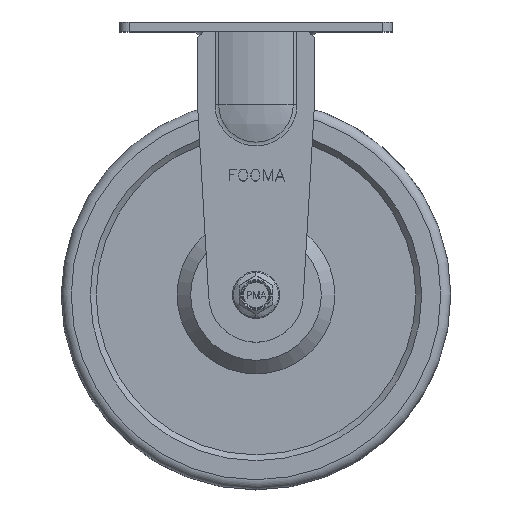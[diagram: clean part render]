
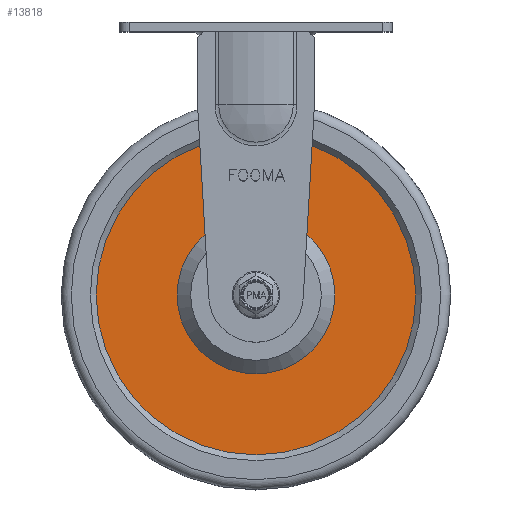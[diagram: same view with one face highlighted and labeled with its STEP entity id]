
A CAD part, top view. The second image highlights one B-rep face of the part: STEP entity #13818.
In plain terms, the highlighted planar face has unit normal (0, 0, 1).
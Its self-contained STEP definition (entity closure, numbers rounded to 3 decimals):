
#167=FACE_BOUND('',#2297,.T.);
#815=PLANE('',#14717);
#1525=FACE_OUTER_BOUND('',#2296,.T.);
#2296=EDGE_LOOP('',(#13052,#13053));
#2297=EDGE_LOOP('',(#13054,#13055));
#5872=CIRCLE('',#14715,82.);
#5873=CIRCLE('',#14716,82.);
#5874=CIRCLE('',#14718,40.5);
#5875=CIRCLE('',#14719,40.5);
#7173=VERTEX_POINT('',#23525);
#7174=VERTEX_POINT('',#23526);
#7175=VERTEX_POINT('',#23531);
#7176=VERTEX_POINT('',#23532);
#9133=EDGE_CURVE('',#7173,#7174,#5872,.T.);
#9134=EDGE_CURVE('',#7174,#7173,#5873,.T.);
#9136=EDGE_CURVE('',#7175,#7176,#5874,.T.);
#9137=EDGE_CURVE('',#7176,#7175,#5875,.T.);
#13052=ORIENTED_EDGE('',*,*,#9133,.T.);
#13053=ORIENTED_EDGE('',*,*,#9134,.T.);
#13054=ORIENTED_EDGE('',*,*,#9136,.F.);
#13055=ORIENTED_EDGE('',*,*,#9137,.F.);
#13818=ADVANCED_FACE('',(#1525,#167),#815,.T.);
#14715=AXIS2_PLACEMENT_3D('',#23527,#18161,#18162);
#14716=AXIS2_PLACEMENT_3D('',#23528,#18163,#18164);
#14717=AXIS2_PLACEMENT_3D('',#23530,#18166,#18167);
#14718=AXIS2_PLACEMENT_3D('',#23533,#18168,#18169);
#14719=AXIS2_PLACEMENT_3D('',#23534,#18170,#18171);
#18161=DIRECTION('center_axis',(0.,0.,
1.));
#18162=DIRECTION('ref_axis',(1.,0.,0.));
#18163=DIRECTION('center_axis',(0.,0.,
1.));
#18164=DIRECTION('ref_axis',(1.,0.,0.));
#18166=DIRECTION('center_axis',(0.,0.,
1.));
#18167=DIRECTION('ref_axis',(1.,0.,0.));
#18168=DIRECTION('center_axis',(0.,0.,
1.));
#18169=DIRECTION('ref_axis',(1.,0.,0.));
#18170=DIRECTION('center_axis',(0.,0.,
1.));
#18171=DIRECTION('ref_axis',(1.,0.,0.));
#23525=CARTESIAN_POINT('',(82.,-135.,17.));
#23526=CARTESIAN_POINT('',(-82.,-135.,17.));
#23527=CARTESIAN_POINT('Origin',(0.,-135.,
17.));
#23528=CARTESIAN_POINT('Origin',(0.,-135.,
17.));
#23530=CARTESIAN_POINT('Origin',(40.5,-135.,17.));
#23531=CARTESIAN_POINT('',(40.5,-135.,17.));
#23532=CARTESIAN_POINT('',(-40.5,-135.,17.));
#23533=CARTESIAN_POINT('Origin',(0.,-135.,
17.));
#23534=CARTESIAN_POINT('Origin',(0.,-135.,
17.));
